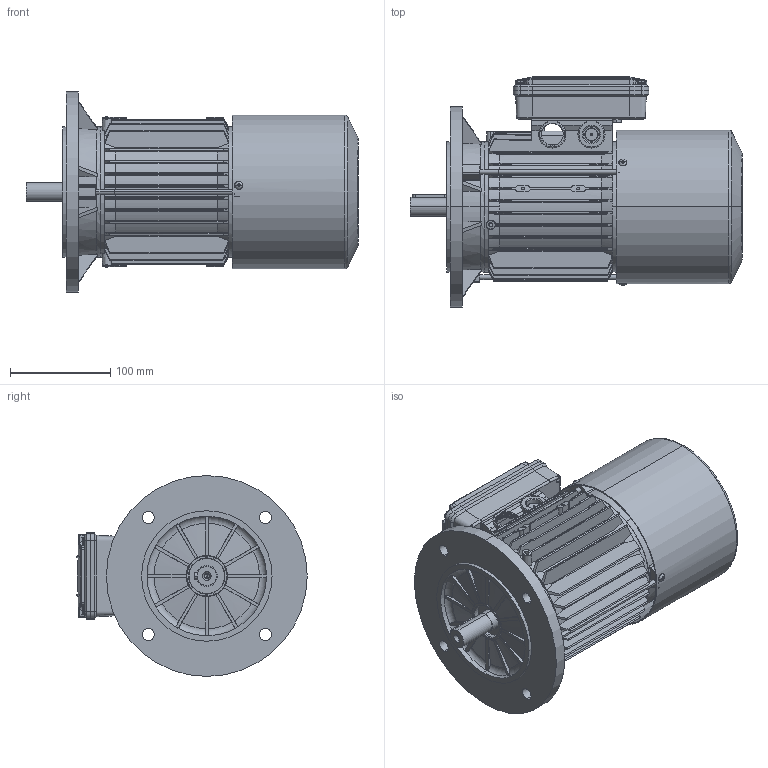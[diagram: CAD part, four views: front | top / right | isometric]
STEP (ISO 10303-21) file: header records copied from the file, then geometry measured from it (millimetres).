
FILE_DESCRIPTION (( 'STEP AP214' ), '1' );
FILE_NAME ('M14DB0012.STEP', '2019-01-31T14:15:54', ( '' ), ( '' ), 'SwSTEP 2.0', 'SolidWorks 2018', '' );
FILE_SCHEMA (( 'AUTOMOTIVE_DESIGN' ));
Length unit declared in the file: millimetre
Products named in the file (14): Scatola per Morsettiera Doppia 63-71-80 - Completa; Guarnizione Scatola Singola 63-71-80; Vite per coperchio morsettiera; Coperchio per Scatola per Morsettiera Doppia 63-71-80; Scatola per Morsettiera Doppia 63-71-80; Vite testa rotonda M3; Scudo Lato Freno P1 BM 80 - DCAH0195; Cuffia BM 80 - DCAL0097; Tirante SM 80; Scudo a flangia B5 Fi 200 BA-BM 80; Chiavetta 80; Albero BM 80; Carcassa 80 B5; M14DB0012
Assembly tree (20 placements, depth 3):
  M14DB0012
    Carcassa 80 B5
    Albero BM 80
    Chiavetta 80
    Scudo a flangia B5 Fi 200 BA-BM 80
    Tirante SM 80  x3
    Cuffia BM 80 - DCAL0097
    Scudo Lato Freno P1 BM 80 - DCAH0195
    Vite testa rotonda M3  x3
    Scatola per Morsettiera Doppia 63-71-80 - Completa
      Scatola per Morsettiera Doppia 63-71-80
      Coperchio per Scatola per Morsettiera Doppia 63-71-80
      Vite per coperchio morsettiera  x4
      Guarnizione Scatola Singola 63-71-80
Bounding box: 330.75 x 229.5 x 200 mm (x, y, z)
Volume: 1008254.7 mm3; surface area: 639549 mm2
Topology: 22 solids, 22 shells, 2801 faces, 7582 edges, 4876 vertices
Faces by surface type: plane 1029, cylinder 1004, torus 323, cone 275, bspline 156, sphere 14
Entity records: 96506 total; most frequent: CARTESIAN_POINT 33952, ORIENTED_EDGE 13510, DIRECTION 12190, EDGE_CURVE 6755, AXIS2_PLACEMENT_3D 4588, VERTEX_POINT 4378, LINE 3014, VECTOR 3014
